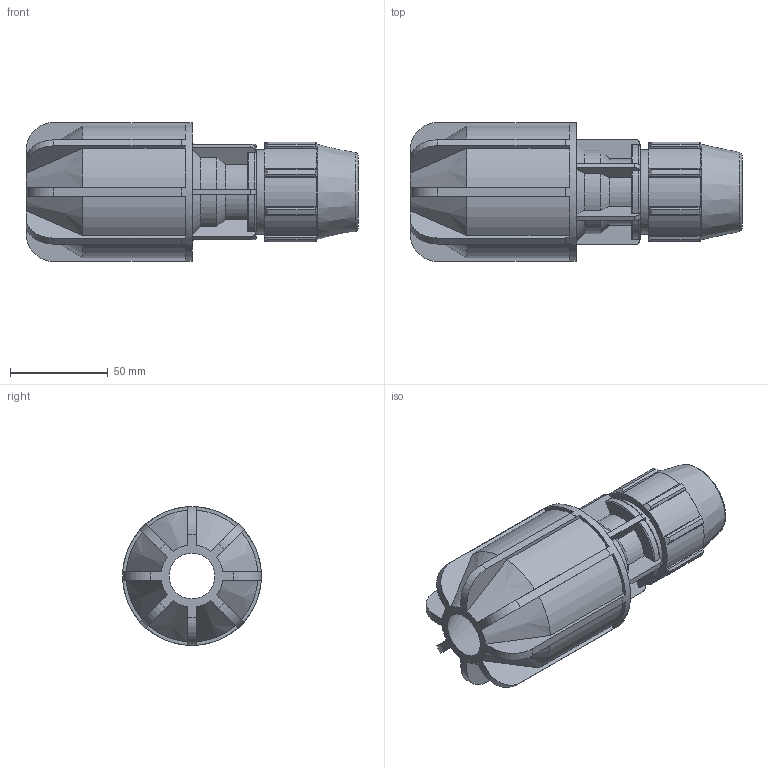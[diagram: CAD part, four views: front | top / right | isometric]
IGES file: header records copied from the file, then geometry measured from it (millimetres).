
Global section: file name: 070170M07027.ipt; native system: Autodesk Inventor 2019; preprocessor: unknown; author: KIM; date: 20210826.124331; units: inch
Bounding box: 169.93 x 71.12 x 71.12 mm (x, y, z)
Volume: 274271.7 mm3; surface area: 64060.5 mm2
Topology: 1 solids, 1 shells, 220 faces, 635 edges, 422 vertices
Faces by surface type: plane 111, cylinder 58, cone 30, revolution 21
Full cylindrical faces by diameter (mm): 43.282 x1, 71.12 x1
